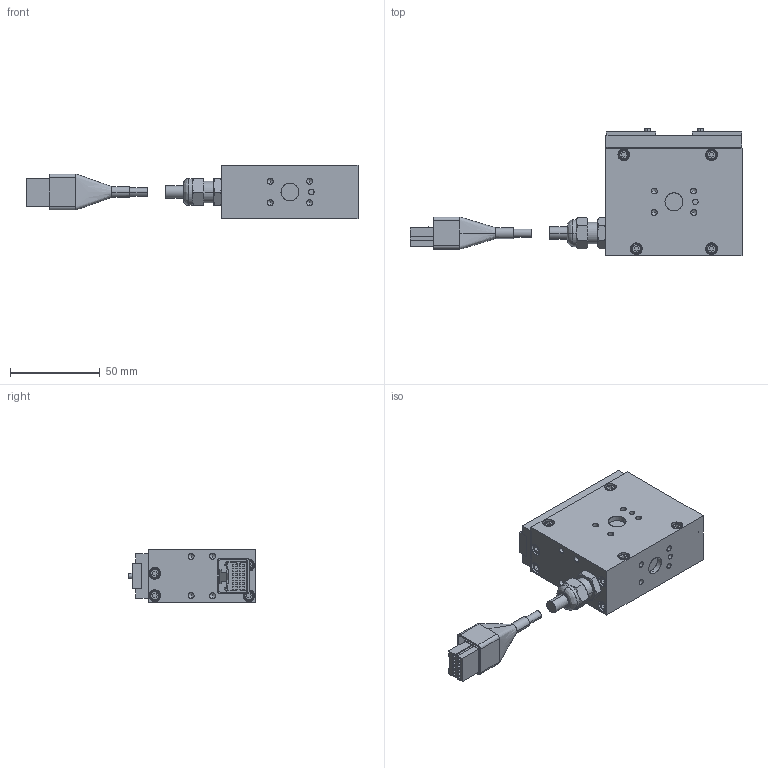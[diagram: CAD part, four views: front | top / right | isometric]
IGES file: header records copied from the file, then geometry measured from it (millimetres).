
Start section: SolidWorks IGES file using analytic representation for surfaces
Global section: file name: G:\SW2007図面\TAIYO\電動機器３Ｄ\電動グリッパ　２爪\ESG-FS-2020.IGS; native system: SolidWorks 2007; preprocessor: SolidWorks 2007; author: 風音庵,,1; organization: 1; date: 090212.173554; units: millimetre
Bounding box: 185.39 x 71 x 30 mm (x, y, z)
Surface area: 33156.3 mm2 (no closed solid volume)
Topology: 0 solids, 0 shells, 447 faces, 4979 edges, 4955 vertices
Faces by surface type: bspline 267, revolution 180
